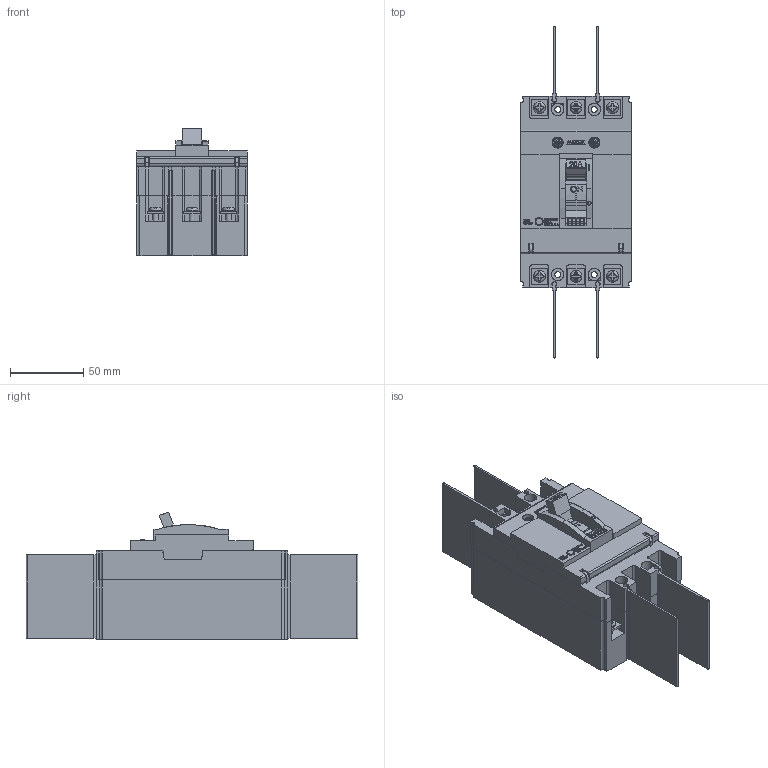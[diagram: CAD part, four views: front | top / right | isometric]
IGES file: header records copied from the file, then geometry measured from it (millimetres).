
Start section: SolidWorks IGES file using analytic representation for surfaces
Global section: file name: D:\X - Arquivos\PROEX\Empresas\P11 - METALTEX\01 - Produtos\IGES\5ª remessa\1ª etapa\DCM50S3.IGS; native system: SolidWorks 2012; preprocessor: SolidWorks 2012; author: Usuario; date: 180712.144859; units: millimetre
Bounding box: 75.5 x 227 x 87.13 mm (x, y, z)
Surface area: 108828.1 mm2 (no closed solid volume)
Topology: 0 solids, 0 shells, 1239 faces, 12286 edges, 12286 vertices
Faces by surface type: bspline 1068, revolution 171
